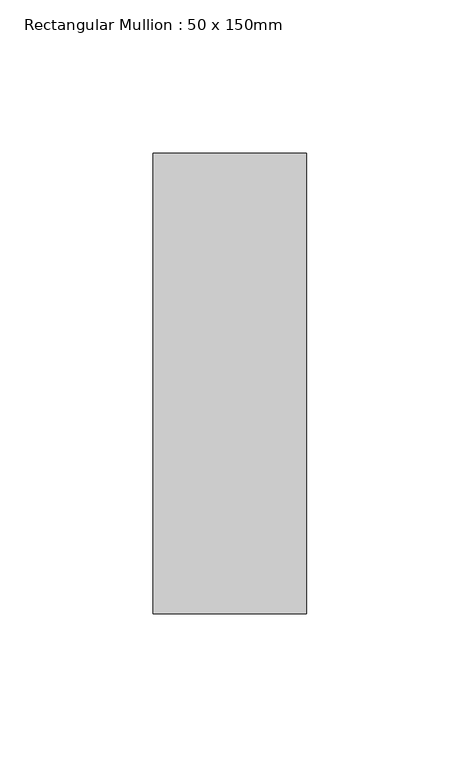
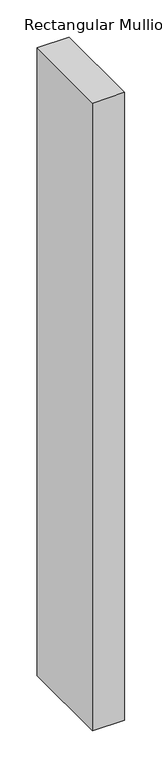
"""IFC4 building model written with IfcOpenShell, lengths in millimetres: member geometry, Rectangular Mullion : 50 x 150mm."""

from ifc_helpers import new_model, si_unit, frame, origin, place, context, project, spatial, polyline, outline, extrude, source, transform, mapped, element, save


def rectangular_mullion_50_x_150mm_ba08e771(model_context):
    return source(origin(), model_context, "Body", "SweptSolid", [
        extrude(outline(polyline([(25.0, 75.0), (25.0, -75.0), (-25.0, -75.0), (-25.0, 75.0), (25.0, 75.0)])), frame((0.0, 0.0, -1032.5), z_axis=(0.0, 0.0, 1.0), x_axis=(1.0, 0.0, 0.0)), (0.0, 0.0, 1.0), 1032.5),
    ])


if __name__ == "__main__":
    model = new_model("IFC4")
    model_context = context("Model", 3, world=origin())
    ifc_project = project(units=[si_unit("LENGTHUNIT", "METRE", prefix="MILLI")], contexts=[model_context])
    site = spatial("IfcSite", under=ifc_project)
    building = spatial("IfcBuilding", under=site)
    placement = place(None, origin())
    rectangular_mullion_50_x_150mm_shape = rectangular_mullion_50_x_150mm_ba08e771(model_context)
    element("IfcMember", 1, ObjectType="Rectangular Mullion : 50 x 150mm", at=placement, inside=building, context=model_context, shape_type="MappedRepresentation", body=[
        mapped(rectangular_mullion_50_x_150mm_shape, transform((0.0, 0.0, 0.0), x_axis=(1.0, 0.0, 0.0), y_axis=(0.0, 1.0, 0.0), z_axis=(0.0, 0.0, 1.0))),
    ])
    save(model, "model.ifc")
